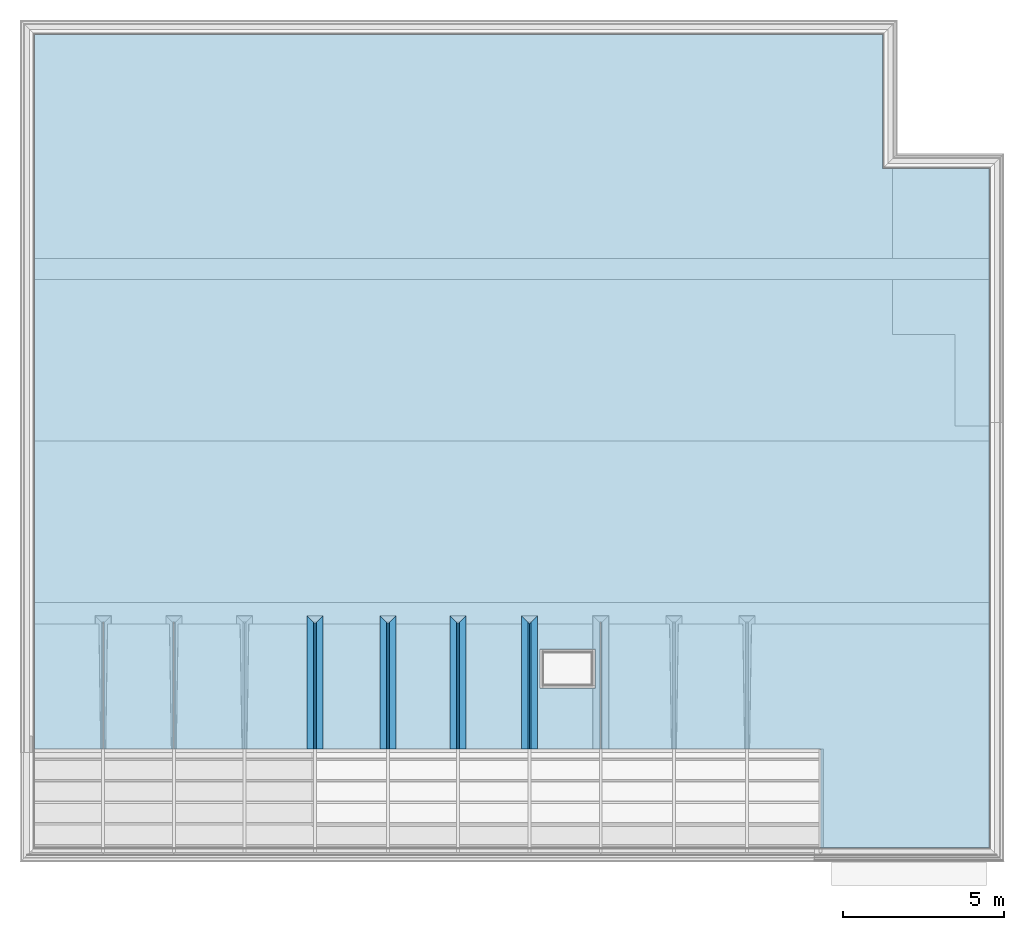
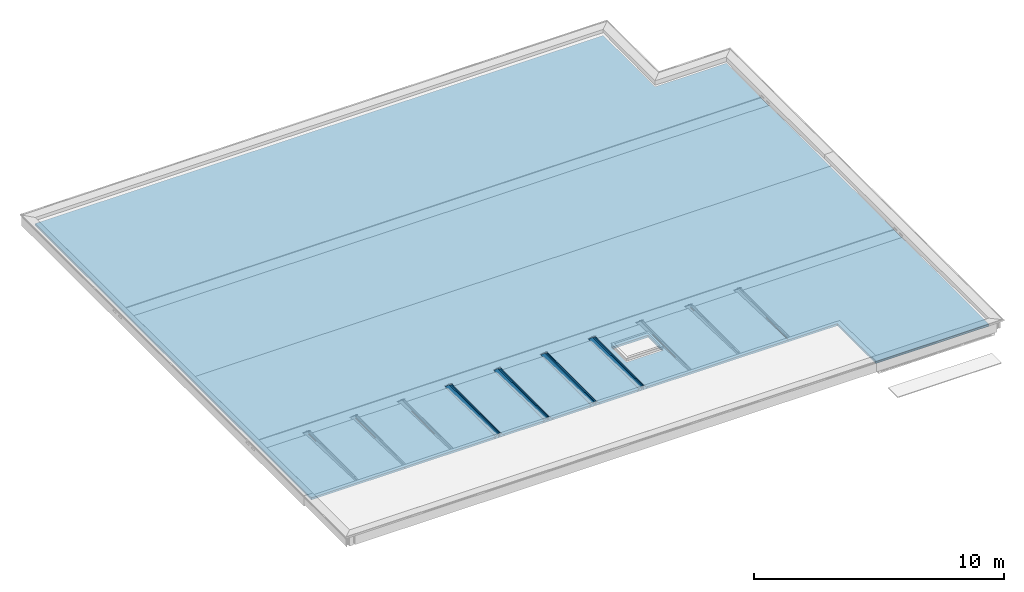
# One storey, part 8 of 16: 17 building element parts, 9 elements without a shape of their own.
"""IFC2X3 building model written with IfcOpenShell, lengths in millimetres."""

from ifc_helpers import new_model, entity, si_unit, converted_unit, derived_unit, money_unit, direction, frame, origin_with_axes, place, context, subcontext, project, spatial, faceted_brep, material, type_object, element, aggregate, save


model = new_model("IFC2X3")

# Units and contexts
model_context = context("Model", 3, precision=0.01, world=origin_with_axes(), true_north=direction((0.0, 1.0)))
body_context = subcontext(model_context, "Body", "Model", "MODEL_VIEW")
ifc_project = project(units=[si_unit("LENGTHUNIT", "METRE", prefix="MILLI"), si_unit("AREAUNIT", "SQUARE_METRE"), si_unit("VOLUMEUNIT", "CUBIC_METRE"), converted_unit("PLANEANGLEUNIT", "DEGREE", entity("IfcPlaneAngleMeasure", 0.0174532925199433), si_unit("PLANEANGLEUNIT", "RADIAN"), dimensions=[0, 0, 0, 0, 0, 0, 0]), money_unit("EUR"), converted_unit("TIMEUNIT", "Year", entity("IfcTimeMeasure", 31556926.0), si_unit("TIMEUNIT", "SECOND"), dimensions=[0, 0, 1, 0, 0, 0, 0]), si_unit("MASSUNIT", "GRAM", prefix="KILO"), si_unit("THERMODYNAMICTEMPERATUREUNIT", "DEGREE_CELSIUS"), si_unit("LUMINOUSINTENSITYUNIT", "LUMEN"), si_unit("ENERGYUNIT", "JOULE", prefix="MEGA"), derived_unit("THERMALCONDUCTANCEUNIT", [(si_unit("POWERUNIT", "WATT"), 1), (si_unit("LENGTHUNIT", "METRE"), -1), (si_unit("THERMODYNAMICTEMPERATUREUNIT", "KELVIN"), -1)]), derived_unit("SPECIFICHEATCAPACITYUNIT", [(si_unit("ENERGYUNIT", "JOULE"), 1), (si_unit("MASSUNIT", "GRAM", prefix="KILO"), -1), (si_unit("THERMODYNAMICTEMPERATUREUNIT", "KELVIN"), -1)]), derived_unit("MASSDENSITYUNIT", [(si_unit("MASSUNIT", "GRAM", prefix="KILO"), 1), (si_unit("VOLUMEUNIT", "CUBIC_METRE"), -1)])], contexts=[model_context])

# Site, building, storey
site_placement = place(None, origin_with_axes())
site = spatial("IfcSite", under=ifc_project, at=site_placement, Name="Site", CompositionType="ELEMENT")
building_placement = place(site_placement, origin_with_axes())
building = spatial("IfcBuilding", under=site, at=building_placement, Name="Naam gebouw", CompositionType="ELEMENT")
storey_placement = place(building_placement, frame((0.0, 0.0, 7820.0), z_axis=(0.0, 0.0, 1.0), x_axis=(1.0, 0.0, 0.0)))
storey = spatial("IfcBuildingStorey", under=building, at=storey_placement, Name="2e dakoverzicht", CompositionType="ELEMENT", Elevation=7820.0)

# Slab, building element part
slab_type = type_object("IfcSlabType", Name="27 Dak isolatie 350", PredefinedType="NOTDEFINED")
slab_placement = place(storey_placement, frame((154.9999999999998, 6779.999999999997, 0.0), z_axis=(0.0, 0.0, 1.0), x_axis=(1.0, 0.0, 0.0)))
slab = element("IfcSlab", 1, at=slab_placement, inside=storey, type_object=slab_type, Name="_Vloer-x", PredefinedType="NOTDEFINED")
ifc_material_1 = material(Name="Isolatie - Steenwol hard")
building_element_part_1_placement = place(slab_placement, origin_with_axes())
building_element_part_1 = element("IfcBuildingElementPart", 2, at=building_element_part_1_placement, material=ifc_material_1, Name="Isolatie - Steenwol hard", context=body_context, shape_type="Brep", body=[
    faceted_brep([(22080.98250151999, 4030.00005527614, 199.9999999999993), (22080.98250151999, 100.0000000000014, 199.9999999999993), (24344.99902028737, 100.0000000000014, 199.9999999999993), (24344.99902028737, 89.99999999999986, 199.9999999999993), (24347.64903999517, 89.99999999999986, 199.9999999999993), (24347.64903999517, -2966.000000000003, 199.9999999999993), (29589.99999999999, -2966.000000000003, 199.9999999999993), (29589.99999999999, 18089.97621406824, 199.9999999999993), (26290.00000000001, 18089.97621406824, 199.9999999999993), (26290.00000000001, 22240.0, 199.9999999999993), (0.0, 22240.0, 199.9999999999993), (0.0, 100.0000000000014, 199.9999999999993), (2129.849999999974, 100.0000000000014, 199.9999999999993), (2129.849999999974, 4030.00005527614, 199.9999999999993), (2135.149999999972, 4030.00005527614, 199.9999999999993), (2135.149999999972, 100.0000000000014, 199.9999999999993), (4317.350000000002, 100.0000000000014, 199.9999999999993), (4317.350000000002, 4030.00005527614, 199.9999999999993), (4322.650000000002, 4030.00005527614, 199.9999999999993), (4322.650000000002, 100.0000000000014, 199.9999999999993), (6504.8499999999, 100.0000000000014, 199.9999999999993), (6504.849999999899, 4030.00005527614, 199.9999999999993), (6510.149999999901, 4030.00005527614, 199.9999999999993), (6510.149999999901, 100.0000000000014, 199.9999999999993), (8692.350000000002, 100.0000000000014, 199.9999999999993), (8692.350000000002, 4030.00005527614, 199.9999999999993), (8697.650000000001, 4030.00005527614, 199.9999999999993), (8697.650000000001, 100.0000000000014, 199.9999999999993), (10950.34985614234, 100.0000000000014, 199.9999999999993), (10950.34985614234, 4030.00005527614, 199.9999999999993), (10955.64985614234, 4030.00005527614, 199.9999999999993), (10955.64985614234, 100.0000000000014, 199.9999999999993), (13117.34971228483, 100.0000000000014, 199.9999999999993), (13117.34971228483, 4030.00005527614, 199.9999999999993), (13122.64971228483, 4030.00005527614, 199.9999999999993), (13122.64971228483, 100.0000000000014, 199.9999999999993), (15329.84956842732, 100.0000000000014, 199.9999999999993), (15329.84956842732, 4030.00005527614, 199.9999999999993), (15335.14956842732, 4030.00005527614, 199.9999999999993), (15335.14956842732, 100.0000000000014, 199.9999999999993), (17542.3494245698, 100.0000000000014, 199.9999999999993), (17542.3494245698, 4030.00005527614, 199.9999999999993), (17547.6494245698, 4030.00005527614, 199.9999999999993), (17547.6494245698, 100.0000000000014, 199.9999999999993), (19809.01596304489, 100.0000000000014, 199.9999999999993), (19809.01596304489, 4030.00005527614, 199.9999999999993), (19814.31596304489, 4030.00005527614, 199.9999999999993), (19814.31596304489, 100.0000000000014, 199.9999999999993), (22075.68250152, 100.0000000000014, 199.9999999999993), (22075.68250152, 4030.00005527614, 199.9999999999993), (15669.99903999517, 3190.000318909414, 199.9999999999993), (17369.99903999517, 3190.000318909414, 199.9999999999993), (17369.99903999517, 1990.000318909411, 199.9999999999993), (15669.99903999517, 1990.000318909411, 199.9999999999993), (22080.98250151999, 4030.00005527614, 99.99999999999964), (22080.98250151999, 100.0000000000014, 99.99999999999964), (24344.99902028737, 100.0000000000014, 99.99999999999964), (24344.99902028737, 89.99999999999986, 99.99999999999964), (24347.64903999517, 89.99999999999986, 99.99999999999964), (24347.64903999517, -2966.000000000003, 99.99999999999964), (29589.99999999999, -2966.000000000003, 99.99999999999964), (29589.99999999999, 18089.97621406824, 99.99999999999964), (26290.00000000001, 18089.97621406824, 99.99999999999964), (26290.00000000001, 22240.0, 99.99999999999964), (0.0, 22240.0, 99.99999999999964), (0.0, 100.0000000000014, 99.99999999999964), (2129.849999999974, 100.0000000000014, 99.99999999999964), (2129.849999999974, 4030.00005527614, 99.99999999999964), (2135.149999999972, 4030.00005527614, 99.99999999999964), (2135.149999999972, 100.0000000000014, 99.99999999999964), (4317.350000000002, 100.0000000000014, 99.99999999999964), (4317.350000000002, 4030.00005527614, 99.99999999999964), (4322.650000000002, 4030.00005527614, 99.99999999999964), (4322.650000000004, 100.0000000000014, 99.99999999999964), (6504.849999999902, 100.0000000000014, 99.99999999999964), (6504.849999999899, 4030.00005527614, 99.99999999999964), (6510.149999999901, 4030.00005527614, 99.99999999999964), (6510.149999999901, 100.0000000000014, 99.99999999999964), (8692.350000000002, 100.0000000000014, 99.99999999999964), (8692.350000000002, 4030.00005527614, 99.99999999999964), (8697.650000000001, 4030.00005527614, 99.99999999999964), (8697.650000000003, 100.0000000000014, 99.99999999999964), (10950.34985614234, 100.0000000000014, 99.99999999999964), (10950.34985614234, 4030.00005527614, 99.99999999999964), (10955.64985614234, 4030.00005527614, 99.99999999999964), (10955.64985614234, 100.0000000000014, 99.99999999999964), (13117.34971228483, 100.0000000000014, 99.99999999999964), (13117.34971228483, 4030.00005527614, 99.99999999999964), (13122.64971228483, 4030.00005527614, 99.99999999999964), (13122.64971228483, 100.0000000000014, 99.99999999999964), (15329.84956842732, 100.0000000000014, 99.99999999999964), (15329.84956842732, 4030.00005527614, 99.99999999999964), (15335.14956842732, 4030.00005527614, 99.99999999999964), (15335.14956842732, 100.0000000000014, 99.99999999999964), (17542.3494245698, 100.0000000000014, 99.99999999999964), (17542.3494245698, 4030.00005527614, 99.99999999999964), (17547.6494245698, 4030.00005527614, 99.99999999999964), (17547.6494245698, 100.0000000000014, 99.99999999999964), (19809.01596304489, 100.0000000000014, 99.99999999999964), (19809.01596304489, 4030.00005527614, 99.99999999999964), (19814.31596304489, 4030.00005527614, 99.99999999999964), (19814.31596304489, 100.0000000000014, 99.99999999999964), (22075.68250152, 100.0000000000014, 99.99999999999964), (22075.68250152, 4030.00005527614, 99.99999999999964), (17369.99903999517, 3190.000318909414, 99.99999999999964), (15669.99903999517, 3190.000318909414, 99.99999999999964), (17369.99903999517, 1990.000318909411, 99.99999999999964), (15669.99903999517, 1990.000318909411, 99.99999999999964)], [[[0, 1, 2, 3, 4, 5, 6, 7, 8, 9, 10, 11, 12, 13, 14, 15, 16, 17, 18, 19, 20, 21, 22, 23, 24, 25, 26, 27, 28, 29, 30, 31, 32, 33, 34, 35, 36, 37, 38, 39, 40, 41, 42, 43, 44, 45, 46, 47, 48, 49], [50, 51, 52, 53]], [[0, 54, 55, 1]], [[55, 56, 2, 1]], [[56, 57, 3, 2]], [[58, 4, 3, 57]], [[4, 58, 59, 5]], [[59, 60, 6, 5]], [[61, 7, 6, 60]], [[62, 8, 7, 61]], [[63, 9, 8, 62]], [[64, 10, 9, 63]], [[10, 64, 65, 11]], [[11, 65, 66, 12]], [[67, 13, 12, 66]], [[13, 67, 68, 14]], [[14, 68, 69, 15]], [[15, 69, 70, 16]], [[71, 17, 16, 70]], [[17, 71, 72, 18]], [[18, 72, 73, 19]], [[19, 73, 74, 20]], [[75, 21, 20, 74]], [[21, 75, 76, 22]], [[22, 76, 77, 23]], [[23, 77, 78, 24]], [[79, 25, 24, 78]], [[25, 79, 80, 26]], [[26, 80, 81, 27]], [[27, 81, 82, 28]], [[83, 29, 28, 82]], [[29, 83, 84, 30]], [[30, 84, 85, 31]], [[31, 85, 86, 32]], [[87, 33, 32, 86]], [[33, 87, 88, 34]], [[34, 88, 89, 35]], [[35, 89, 90, 36]], [[91, 37, 36, 90]], [[37, 91, 92, 38]], [[38, 92, 93, 39]], [[39, 93, 94, 40]], [[95, 41, 40, 94]], [[41, 95, 96, 42]], [[42, 96, 97, 43]], [[43, 97, 98, 44]], [[99, 45, 44, 98]], [[45, 99, 100, 46]], [[46, 100, 101, 47]], [[47, 101, 102, 48]], [[103, 49, 48, 102]], [[49, 103, 54, 0]], [[104, 51, 50, 105]], [[106, 52, 51, 104]], [[107, 53, 52, 106]], [[105, 50, 53, 107]], [[58, 57, 56, 55, 54, 103, 102, 101, 100, 99, 98, 97, 96, 95, 94, 93, 92, 91, 90, 89, 88, 87, 86, 85, 84, 83, 82, 81, 80, 79, 78, 77, 76, 75, 74, 73, 72, 71, 70, 69, 68, 67, 66, 65, 64, 63, 62, 61, 60, 59], [105, 107, 106, 104]]]),
])
aggregate(slab, [building_element_part_1])

# Beam, building element parts
beam_type = type_object("IfcBeamType", Name="47 IPE inpakken 250 x 203", PredefinedType="BEAM")
beam_1_placement = place(storey_placement, frame((13229.49971228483, 10810.00005527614, 269.9999999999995), z_axis=(0.0, 0.0, 1.0), x_axis=(-1.0, 0.0, 0.0)))
beam_1 = element("IfcBeam", 3, at=beam_1_placement, inside=storey, type_object=beam_type, Name="_Regenwaterafvoer-x", ObjectType="BEAM")
ifc_material_2 = material(Name="47 waterdichte laag - bitumen")
building_element_part_2_placement = place(beam_1_placement, origin_with_axes())
building_element_part_2 = element("IfcBuildingElementPart", 4, at=building_element_part_2_placement, material=ifc_material_2, Name="47 waterdichte laag - bitumen", context=body_context, shape_type="Brep", body=[
    faceted_brep([(-45.50000000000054, 3930.000055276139, 52.99999990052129), (-45.50000000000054, 3930.000055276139, 50.00000164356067), (-45.50000000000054, 45.50000000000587, 50.00000164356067), (-45.50000000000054, 45.50000000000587, 52.99999990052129), (1.242640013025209, 3930.000055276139, 52.99999990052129), (204.2426399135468, 3930.000055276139, -150.0000000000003), (199.9999981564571, 3930.000055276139, -150.0000000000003), (2.34354757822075e-07, 3930.000055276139, 50.00000164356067), (2.34354757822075e-07, -2.343494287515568e-07, 50.00000164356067), (199.9999981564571, -199.9999981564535, -150.0000000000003), (204.2426399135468, -204.2426399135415, -150.0000000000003), (1.242640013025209, -1.24264001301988, 52.99999990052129)], [[[0, 1, 2, 3]], [[0, 4, 5, 6, 7, 1]], [[1, 7, 8, 2]], [[3, 2, 8, 9, 10, 11]], [[4, 0, 3, 11]], [[5, 4, 11, 10]], [[6, 5, 10, 9]], [[7, 6, 9, 8]]]),
])
ifc_material_3 = material(Name="Isolatie - Kunststof hard")
building_element_part_3_placement = place(beam_1_placement, origin_with_axes())
building_element_part_3 = element("IfcBuildingElementPart", 5, at=building_element_part_3_placement, material=ifc_material_3, Name="Isolatie - Kunststof hard", context=body_context, shape_type="Brep", body=[
    faceted_brep([(199.999999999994, 3930.000055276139, -150.0000000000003), (0.0, 3930.000055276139, 50.00000000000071), (0.0, 0.0, 50.00000000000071), (199.999999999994, -199.9999999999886, -150.0000000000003), (0.0, 3930.000055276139, -150.0000000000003), (0.0, 3930.000055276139, 0.0), (-45.50000000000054, 3930.000055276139, 0.0), (-45.50000000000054, 3930.000055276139, 50.00000000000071), (-45.50000000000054, 45.50000000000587, 50.00000000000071), (-45.50000000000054, 45.50000000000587, 0.0), (0.0, 0.0, 0.0), (0.0, 0.0, -150.0000000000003)], [[[0, 1, 2, 3]], [[0, 4, 5, 6, 7, 1]], [[1, 7, 8, 2]], [[3, 2, 8, 9, 10, 11]], [[4, 0, 3, 11]], [[5, 4, 11, 10]], [[6, 5, 10, 9]], [[7, 6, 9, 8]]]),
])
aggregate(beam_1, [building_element_part_2, building_element_part_3])

beam_2_placement = place(storey_placement, frame((13320.49971228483, 6879.999999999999, 269.9999999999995), z_axis=(0.0, 0.0, 1.0), x_axis=(1.0, 0.0, 0.0)))
beam_2 = element("IfcBeam", 6, at=beam_2_placement, inside=storey, type_object=beam_type, Name="_Regenwaterafvoer-x", ObjectType="BEAM")
building_element_part_4_placement = place(beam_2_placement, origin_with_axes())
building_element_part_4 = element("IfcBuildingElementPart", 7, at=building_element_part_4_placement, material=ifc_material_2, Name="47 waterdichte laag - bitumen", context=body_context, shape_type="Brep", body=[
    faceted_brep([(-45.50000000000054, 3884.500055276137, 52.99999990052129), (-45.50000000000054, 3884.500055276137, 50.00000164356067), (-45.50000000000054, 0.0, 50.00000164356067), (-45.50000000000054, 0.0, 52.99999990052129), (1.242640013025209, 3931.242695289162, 52.99999990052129), (204.2426399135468, 4134.242695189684, -150.0000000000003), (199.9999981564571, 4130.000053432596, -150.0000000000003), (2.34354757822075e-07, 3930.000055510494, 50.00000164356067), (2.34354757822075e-07, 0.0, 50.00000164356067), (199.9999981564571, 0.0, -150.0000000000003), (204.2426399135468, 0.0, -150.0000000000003), (1.242640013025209, 0.0, 52.99999990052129)], [[[0, 1, 2, 3]], [[0, 4, 5, 6, 7, 1]], [[1, 7, 8, 2]], [[3, 2, 8, 9, 10, 11]], [[4, 0, 3, 11]], [[5, 4, 11, 10]], [[6, 5, 10, 9]], [[7, 6, 9, 8]]]),
])
building_element_part_5_placement = place(beam_2_placement, origin_with_axes())
building_element_part_5 = element("IfcBuildingElementPart", 8, at=building_element_part_5_placement, material=ifc_material_3, Name="Isolatie - Kunststof hard", context=body_context, shape_type="Brep", body=[
    faceted_brep([(199.999999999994, 4130.000055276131, -150.0000000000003), (0.0, 3930.000055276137, 50.00000000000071), (0.0, 0.0, 50.00000000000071), (199.999999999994, 0.0, -150.0000000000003), (0.0, 3930.000055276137, -150.0000000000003), (0.0, 3930.000055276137, 0.0), (-45.50000000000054, 3884.500055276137, 0.0), (-45.50000000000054, 3884.500055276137, 50.00000000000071), (-45.50000000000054, 0.0, 50.00000000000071), (-45.50000000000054, 0.0, 0.0), (0.0, 0.0, 0.0), (0.0, 0.0, -150.0000000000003)], [[[0, 1, 2, 3]], [[0, 4, 5, 6, 7, 1]], [[1, 7, 8, 2]], [[3, 2, 8, 9, 10, 11]], [[4, 0, 3, 11]], [[5, 4, 11, 10]], [[6, 5, 10, 9]], [[7, 6, 9, 8]]]),
])
aggregate(beam_2, [building_element_part_4, building_element_part_5])

beam_3_placement = place(storey_placement, frame((15441.99956842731, 10810.00005527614, 269.9999999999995), z_axis=(0.0, 0.0, 1.0), x_axis=(-1.0, 0.0, 0.0)))
beam_3 = element("IfcBeam", 9, at=beam_3_placement, inside=storey, type_object=beam_type, Name="_Regenwaterafvoer-x", ObjectType="BEAM")
building_element_part_6_placement = place(beam_3_placement, origin_with_axes())
building_element_part_6 = element("IfcBuildingElementPart", 10, at=building_element_part_6_placement, material=ifc_material_3, Name="Isolatie - Kunststof hard", context=body_context, shape_type="Brep", body=[
    faceted_brep([(199.999999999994, 3930.000055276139, -150.0000000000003), (0.0, 3930.000055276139, 50.00000000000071), (0.0, 0.0, 50.00000000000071), (199.999999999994, -199.999999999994, -150.0000000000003), (0.0, 3930.000055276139, -150.0000000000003), (0.0, 3930.000055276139, 0.0), (-45.50000000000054, 3930.000055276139, 0.0), (-45.50000000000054, 3930.000055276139, 50.00000000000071), (-45.50000000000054, 45.50000000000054, 50.00000000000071), (-45.50000000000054, 45.50000000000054, 0.0), (0.0, 0.0, 0.0), (0.0, 0.0, -150.0000000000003)], [[[0, 1, 2, 3]], [[0, 4, 5, 6, 7, 1]], [[1, 7, 8, 2]], [[3, 2, 8, 9, 10, 11]], [[4, 0, 3, 11]], [[5, 4, 11, 10]], [[6, 5, 10, 9]], [[7, 6, 9, 8]]]),
])
building_element_part_7_placement = place(beam_3_placement, origin_with_axes())
building_element_part_7 = element("IfcBuildingElementPart", 11, at=building_element_part_7_placement, material=ifc_material_2, Name="47 waterdichte laag - bitumen", context=body_context, shape_type="Brep", body=[
    faceted_brep([(-45.50000000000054, 3930.000055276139, 52.99999990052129), (-45.50000000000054, 3930.000055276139, 50.00000164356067), (-45.50000000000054, 45.50000000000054, 50.00000164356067), (-45.50000000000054, 45.50000000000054, 52.99999990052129), (1.242640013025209, 3930.000055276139, 52.99999990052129), (204.2426399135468, 3930.000055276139, -150.0000000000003), (199.9999981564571, 3930.000055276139, -150.0000000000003), (2.34354757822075e-07, 3930.000055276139, 50.00000164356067), (2.34354757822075e-07, -2.34354757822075e-07, 50.00000164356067), (199.9999981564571, -199.9999981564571, -150.0000000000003), (204.2426399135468, -204.2426399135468, -150.0000000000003), (1.242640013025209, -1.242640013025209, 52.99999990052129)], [[[0, 1, 2, 3]], [[0, 4, 5, 6, 7, 1]], [[1, 7, 8, 2]], [[3, 2, 8, 9, 10, 11]], [[4, 0, 3, 11]], [[5, 4, 11, 10]], [[6, 5, 10, 9]], [[7, 6, 9, 8]]]),
])
aggregate(beam_3, [building_element_part_6, building_element_part_7])

beam_4_placement = place(storey_placement, frame((8804.5, 10810.00005527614, 269.9999999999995), z_axis=(0.0, 0.0, 1.0), x_axis=(-1.0, 0.0, 0.0)))
beam_4 = element("IfcBeam", 12, at=beam_4_placement, inside=storey, type_object=beam_type, Name="_Regenwaterafvoer-x", ObjectType="BEAM")
building_element_part_8_placement = place(beam_4_placement, origin_with_axes())
building_element_part_8 = element("IfcBuildingElementPart", 13, at=building_element_part_8_placement, material=ifc_material_2, Name="47 waterdichte laag - bitumen", context=body_context, shape_type="Brep", body=[
    faceted_brep([(-45.50000000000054, 3930.000055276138, 52.99999990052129), (-45.50000000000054, 3930.000055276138, 50.00000164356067), (-45.50000000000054, 45.50000000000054, 50.00000164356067), (-45.50000000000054, 45.50000000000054, 52.99999990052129), (1.242640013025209, 3930.000055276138, 52.99999990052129), (204.2426399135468, 3930.000055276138, -150.0000000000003), (199.9999981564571, 3930.000055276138, -150.0000000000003), (2.34354757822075e-07, 3930.000055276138, 50.00000164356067), (2.34354757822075e-07, -2.34354757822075e-07, 50.00000164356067), (199.9999981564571, -199.9999981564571, -150.0000000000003), (204.2426399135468, -204.2426399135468, -150.0000000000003), (1.242640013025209, -1.242640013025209, 52.99999990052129)], [[[0, 1, 2, 3]], [[0, 4, 5, 6, 7, 1]], [[1, 7, 8, 2]], [[3, 2, 8, 9, 10, 11]], [[4, 0, 3, 11]], [[5, 4, 11, 10]], [[6, 5, 10, 9]], [[7, 6, 9, 8]]]),
])
building_element_part_9_placement = place(beam_4_placement, origin_with_axes())
building_element_part_9 = element("IfcBuildingElementPart", 14, at=building_element_part_9_placement, material=ifc_material_3, Name="Isolatie - Kunststof hard", context=body_context, shape_type="Brep", body=[
    faceted_brep([(199.999999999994, 3930.000055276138, -150.0000000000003), (0.0, 3930.000055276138, 50.00000000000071), (0.0, 0.0, 50.00000000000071), (199.999999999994, -199.999999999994, -150.0000000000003), (0.0, 3930.000055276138, -150.0000000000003), (0.0, 3930.000055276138, 0.0), (-45.50000000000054, 3930.000055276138, 0.0), (-45.50000000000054, 3930.000055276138, 50.00000000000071), (-45.50000000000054, 45.50000000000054, 50.00000000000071), (-45.50000000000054, 45.50000000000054, 0.0), (0.0, 0.0, 0.0), (0.0, 0.0, -150.0000000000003)], [[[0, 1, 2, 3]], [[0, 4, 5, 6, 7, 1]], [[1, 7, 8, 2]], [[3, 2, 8, 9, 10, 11]], [[4, 0, 3, 11]], [[5, 4, 11, 10]], [[6, 5, 10, 9]], [[7, 6, 9, 8]]]),
])
aggregate(beam_4, [building_element_part_8, building_element_part_9])

# Beam, building element part
beam_5_placement = place(storey_placement, frame((8895.500000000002, 6879.999999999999, 269.9999999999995), z_axis=(0.0, 0.0, 1.0), x_axis=(1.0, 0.0, 0.0)))
beam_5 = element("IfcBeam", 15, at=beam_5_placement, inside=storey, type_object=beam_type, Name="_Regenwaterafvoer-x", ObjectType="BEAM")
building_element_part_10_placement = place(beam_5_placement, origin_with_axes())
building_element_part_10 = element("IfcBuildingElementPart", 16, at=building_element_part_10_placement, material=ifc_material_2, Name="47 waterdichte laag - bitumen", context=body_context, shape_type="Brep", body=[
    faceted_brep([(-45.50000000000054, 3884.500055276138, 52.99999990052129), (-45.50000000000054, 3884.500055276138, 50.00000164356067), (-45.50000000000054, 0.0, 50.00000164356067), (-45.50000000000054, 0.0, 52.99999990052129), (1.242640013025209, 3931.242695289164, 52.99999990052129), (204.2426399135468, 4134.242695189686, -150.0000000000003), (199.9999981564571, 4130.000053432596, -150.0000000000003), (2.34354757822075e-07, 3930.000055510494, 50.00000164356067), (2.34354757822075e-07, 0.0, 50.00000164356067), (199.9999981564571, 0.0, -150.0000000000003), (204.2426399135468, 0.0, -150.0000000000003), (1.242640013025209, 0.0, 52.99999990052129)], [[[0, 1, 2, 3]], [[0, 4, 5, 6, 7, 1]], [[1, 7, 8, 2]], [[3, 2, 8, 9, 10, 11]], [[4, 0, 3, 11]], [[5, 4, 11, 10]], [[6, 5, 10, 9]], [[7, 6, 9, 8]]]),
])

# Beam, building element parts
beam_6_placement = place(storey_placement, frame((11153.49985614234, 6879.999999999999, 269.9999999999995), z_axis=(0.0, 0.0, 1.0), x_axis=(1.0, 0.0, 0.0)))
beam_6 = element("IfcBeam", 17, at=beam_6_placement, inside=storey, type_object=beam_type, Name="_Regenwaterafvoer-x", ObjectType="BEAM")
building_element_part_11_placement = place(beam_6_placement, origin_with_axes())
building_element_part_11 = element("IfcBuildingElementPart", 18, at=building_element_part_11_placement, material=ifc_material_2, Name="47 waterdichte laag - bitumen", context=body_context, shape_type="Brep", body=[
    faceted_brep([(-45.50000000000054, 3884.500055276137, 52.99999990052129), (-45.50000000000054, 3884.500055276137, 50.00000164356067), (-45.50000000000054, 0.0, 50.00000164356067), (-45.50000000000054, 0.0, 52.99999990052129), (1.242640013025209, 3931.242695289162, 52.99999990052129), (204.2426399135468, 4134.242695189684, -150.0000000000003), (199.9999981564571, 4130.000053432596, -150.0000000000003), (2.34354757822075e-07, 3930.000055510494, 50.00000164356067), (2.34354757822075e-07, 0.0, 50.00000164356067), (199.9999981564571, 0.0, -150.0000000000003), (204.2426399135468, 0.0, -150.0000000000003), (1.242640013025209, 0.0, 52.99999990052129)], [[[0, 1, 2, 3]], [[0, 4, 5, 6, 7, 1]], [[1, 7, 8, 2]], [[3, 2, 8, 9, 10, 11]], [[4, 0, 3, 11]], [[5, 4, 11, 10]], [[6, 5, 10, 9]], [[7, 6, 9, 8]]]),
])
building_element_part_12_placement = place(beam_6_placement, origin_with_axes())
building_element_part_12 = element("IfcBuildingElementPart", 19, at=building_element_part_12_placement, material=ifc_material_3, Name="Isolatie - Kunststof hard", context=body_context, shape_type="Brep", body=[
    faceted_brep([(199.999999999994, 4130.000055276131, -150.0000000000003), (0.0, 3930.000055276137, 50.00000000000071), (0.0, 0.0, 50.00000000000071), (199.999999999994, 0.0, -150.0000000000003), (0.0, 3930.000055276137, -150.0000000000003), (0.0, 3930.000055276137, 0.0), (-45.50000000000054, 3884.500055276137, 0.0), (-45.50000000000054, 3884.500055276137, 50.00000000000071), (-45.50000000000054, 0.0, 50.00000000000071), (-45.50000000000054, 0.0, 0.0), (0.0, 0.0, 0.0), (0.0, 0.0, -150.0000000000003)], [[[0, 1, 2, 3]], [[0, 4, 5, 6, 7, 1]], [[1, 7, 8, 2]], [[3, 2, 8, 9, 10, 11]], [[4, 0, 3, 11]], [[5, 4, 11, 10]], [[6, 5, 10, 9]], [[7, 6, 9, 8]]]),
])
aggregate(beam_6, [building_element_part_11, building_element_part_12])

beam_7_placement = place(storey_placement, frame((11062.49985614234, 10810.00005527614, 269.9999999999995), z_axis=(0.0, 0.0, 1.0), x_axis=(-1.0, 0.0, 0.0)))
beam_7 = element("IfcBeam", 20, at=beam_7_placement, inside=storey, type_object=beam_type, Name="_Regenwaterafvoer-x", ObjectType="BEAM")
building_element_part_13_placement = place(beam_7_placement, origin_with_axes())
building_element_part_13 = element("IfcBuildingElementPart", 21, at=building_element_part_13_placement, material=ifc_material_3, Name="Isolatie - Kunststof hard", context=body_context, shape_type="Brep", body=[
    faceted_brep([(199.999999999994, 3930.000055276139, -150.0000000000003), (0.0, 3930.000055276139, 50.00000000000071), (0.0, 0.0, 50.00000000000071), (199.999999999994, -199.999999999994, -150.0000000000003), (0.0, 3930.000055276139, -150.0000000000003), (0.0, 3930.000055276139, 0.0), (-45.50000000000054, 3930.000055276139, 0.0), (-45.50000000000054, 3930.000055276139, 50.00000000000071), (-45.50000000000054, 45.50000000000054, 50.00000000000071), (-45.50000000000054, 45.50000000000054, 0.0), (0.0, 0.0, 0.0), (0.0, 0.0, -150.0000000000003)], [[[0, 1, 2, 3]], [[0, 4, 5, 6, 7, 1]], [[1, 7, 8, 2]], [[3, 2, 8, 9, 10, 11]], [[4, 0, 3, 11]], [[5, 4, 11, 10]], [[6, 5, 10, 9]], [[7, 6, 9, 8]]]),
])
building_element_part_14_placement = place(beam_7_placement, origin_with_axes())
building_element_part_14 = element("IfcBuildingElementPart", 22, at=building_element_part_14_placement, material=ifc_material_2, Name="47 waterdichte laag - bitumen", context=body_context, shape_type="Brep", body=[
    faceted_brep([(-45.50000000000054, 3930.000055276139, 52.99999990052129), (-45.50000000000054, 3930.000055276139, 50.00000164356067), (-45.50000000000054, 45.50000000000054, 50.00000164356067), (-45.50000000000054, 45.50000000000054, 52.99999990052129), (1.242640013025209, 3930.000055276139, 52.99999990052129), (204.2426399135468, 3930.000055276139, -150.0000000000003), (199.9999981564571, 3930.000055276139, -150.0000000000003), (2.34354757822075e-07, 3930.000055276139, 50.00000164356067), (2.34354757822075e-07, -2.34354757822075e-07, 50.00000164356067), (199.9999981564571, -199.9999981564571, -150.0000000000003), (204.2426399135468, -204.2426399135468, -150.0000000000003), (1.242640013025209, -1.242640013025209, 52.99999990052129)], [[[0, 1, 2, 3]], [[0, 4, 5, 6, 7, 1]], [[1, 7, 8, 2]], [[3, 2, 8, 9, 10, 11]], [[4, 0, 3, 11]], [[5, 4, 11, 10]], [[6, 5, 10, 9]], [[7, 6, 9, 8]]]),
])
aggregate(beam_7, [building_element_part_13, building_element_part_14])

# Building element part
building_element_part_15_placement = place(beam_5_placement, origin_with_axes())
building_element_part_15 = element("IfcBuildingElementPart", 23, at=building_element_part_15_placement, material=ifc_material_3, Name="Isolatie - Kunststof hard", context=body_context, shape_type="Brep", body=[
    faceted_brep([(199.999999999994, 4130.000055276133, -150.0000000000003), (0.0, 3930.000055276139, 50.00000000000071), (0.0, 0.0, 50.00000000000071), (199.999999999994, 0.0, -150.0000000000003), (0.0, 3930.000055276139, -150.0000000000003), (0.0, 3930.000055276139, 0.0), (-45.50000000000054, 3884.500055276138, 0.0), (-45.50000000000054, 3884.500055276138, 50.00000000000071), (-45.50000000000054, 0.0, 50.00000000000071), (-45.50000000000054, 0.0, 0.0), (0.0, 0.0, 0.0), (0.0, 0.0, -150.0000000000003)], [[[0, 1, 2, 3]], [[0, 4, 5, 6, 7, 1]], [[1, 7, 8, 2]], [[3, 2, 8, 9, 10, 11]], [[4, 0, 3, 11]], [[5, 4, 11, 10]], [[6, 5, 10, 9]], [[7, 6, 9, 8]]]),
])

aggregate(beam_5, [building_element_part_10, building_element_part_15])

# Beam, building element parts
beam_8_placement = place(storey_placement, frame((15532.99956842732, 6879.999999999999, 269.9999999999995), z_axis=(0.0, 0.0, 1.0), x_axis=(1.0, 0.0, 0.0)))
beam_8 = element("IfcBeam", 24, at=beam_8_placement, inside=storey, type_object=beam_type, Name="_Regenwaterafvoer-x", ObjectType="BEAM")
building_element_part_16_placement = place(beam_8_placement, origin_with_axes())
building_element_part_16 = element("IfcBuildingElementPart", 25, at=building_element_part_16_placement, material=ifc_material_2, Name="47 waterdichte laag - bitumen", context=body_context, shape_type="Brep", body=[
    faceted_brep([(-45.50000000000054, 3884.500055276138, 52.99999990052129), (-45.50000000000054, 3884.500055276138, 50.00000164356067), (-45.50000000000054, 0.0, 50.00000164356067), (-45.50000000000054, 0.0, 52.99999990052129), (1.242640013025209, 3931.242695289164, 52.99999990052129), (204.2426399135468, 4134.242695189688, -150.0000000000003), (199.9999981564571, 4130.000053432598, -150.0000000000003), (2.34354757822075e-07, 3930.000055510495, 50.00000164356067), (2.34354757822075e-07, 0.0, 50.00000164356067), (199.9999981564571, 0.0, -150.0000000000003), (204.2426399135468, 0.0, -150.0000000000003), (1.242640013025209, 0.0, 52.99999990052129)], [[[0, 1, 2, 3]], [[0, 4, 5, 6, 7, 1]], [[1, 7, 8, 2]], [[3, 2, 8, 9, 10, 11]], [[4, 0, 3, 11]], [[5, 4, 11, 10]], [[6, 5, 10, 9]], [[7, 6, 9, 8]]]),
])
building_element_part_17_placement = place(beam_8_placement, origin_with_axes())
building_element_part_17 = element("IfcBuildingElementPart", 26, at=building_element_part_17_placement, material=ifc_material_3, Name="Isolatie - Kunststof hard", context=body_context, shape_type="Brep", body=[
    faceted_brep([(199.999999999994, 4130.000055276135, -150.0000000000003), (0.0, 3930.000055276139, 50.00000000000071), (0.0, 0.0, 50.00000000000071), (199.999999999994, 0.0, -150.0000000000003), (0.0, 3930.000055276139, -150.0000000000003), (0.0, 3930.000055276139, 0.0), (-45.50000000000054, 3884.500055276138, 0.0), (-45.50000000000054, 3884.500055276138, 50.00000000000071), (-45.50000000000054, 0.0, 50.00000000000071), (-45.50000000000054, 0.0, 0.0), (0.0, 0.0, 0.0), (0.0, 0.0, -150.0000000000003)], [[[0, 1, 2, 3]], [[0, 4, 5, 6, 7, 1]], [[1, 7, 8, 2]], [[3, 2, 8, 9, 10, 11]], [[4, 0, 3, 11]], [[5, 4, 11, 10]], [[6, 5, 10, 9]], [[7, 6, 9, 8]]]),
])
aggregate(beam_8, [building_element_part_16, building_element_part_17])

save(model, "model.ifc")
